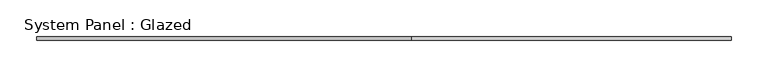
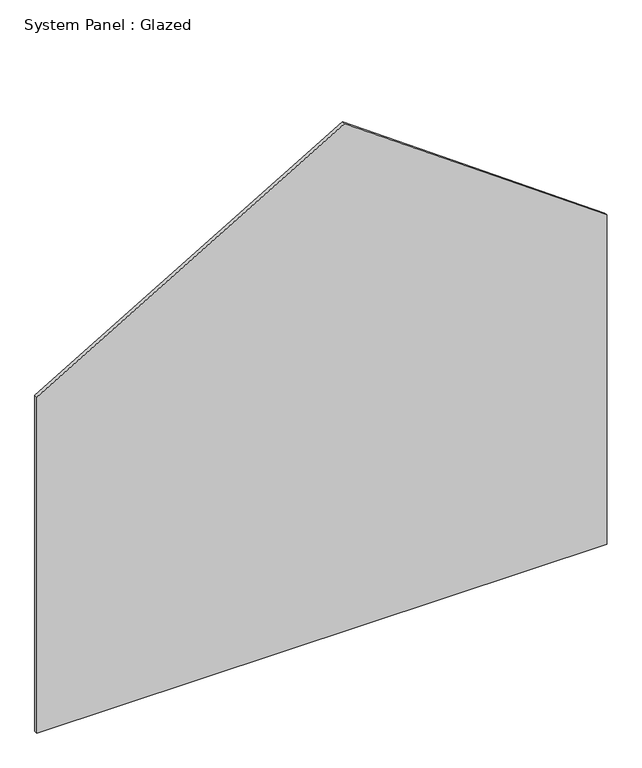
"""IFC4 building model written with IfcOpenShell, lengths in millimetres: plate geometry, System Panel : Glazed."""

from ifc_helpers import new_model, si_unit, frame, origin, place, context, project, spatial, polyline, outline, extrude, source, transform, mapped, element, save


def system_panel_glazed_9cc0c483(model_context):
    return source(origin(), model_context, "Body", "SweptSolid", [
        extrude(outline(polyline([(0.0, -475.0), (0.0, 475.0), (579.7036116, 475.0), (893.3554643, 37.6974783), (591.541285, -475.0), (0.0, -475.0)])), frame((0.0, -2.5, 0.0), z_axis=(0.0, 1.0, 0.0), x_axis=(0.0, 0.0, 1.0)), (0.0, 0.0, 1.0), 5.0),
    ])


if __name__ == "__main__":
    model = new_model("IFC4")
    model_context = context("Model", 3, world=origin())
    ifc_project = project(units=[si_unit("LENGTHUNIT", "METRE", prefix="MILLI")], contexts=[model_context])
    site = spatial("IfcSite", under=ifc_project)
    building = spatial("IfcBuilding", under=site)
    placement = place(None, origin())
    system_panel_glazed_shape = system_panel_glazed_9cc0c483(model_context)
    element("IfcPlate", 1, ObjectType="System Panel : Glazed", at=placement, inside=building, context=model_context, shape_type="MappedRepresentation", body=[
        mapped(system_panel_glazed_shape, transform((0.0, 0.0, 0.0), x_axis=(1.0, 0.0, 0.0), y_axis=(0.0, 1.0, 0.0), z_axis=(0.0, 0.0, 1.0))),
    ])
    save(model, "model.ifc")
